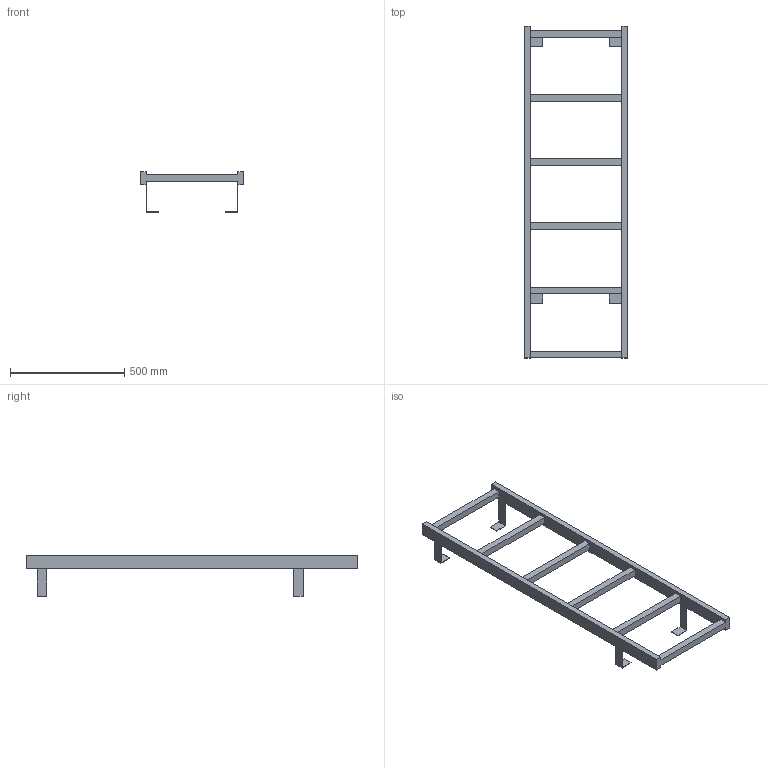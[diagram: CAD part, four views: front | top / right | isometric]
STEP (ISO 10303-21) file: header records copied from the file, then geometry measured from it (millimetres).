
FILE_DESCRIPTION((''),'2;1');
FILE_NAME('017_000109','2017-06-19T',('set'),('HUBER SE'),'PRO/ENGINEER BY PARAMETRIC TECHNOLOGY CORPORATION, 2015280','PRO/ENGINEER BY PARAMETRIC TECHNOLOGY CORPORATION, 2015280','');
FILE_SCHEMA(('CONFIG_CONTROL_DESIGN'));
Length unit declared in the file: millimetre
Products named in the file (1): 017_000109
Bounding box: 450 x 1450 x 178.5 mm (x, y, z)
Volume: 6357460 mm3; surface area: 817988 mm2
Topology: 1 solids, 1 shells, 66 faces, 293 edges, 225 vertices
Faces by surface type: plane 66
Entity records: 2826 total; most frequent: CARTESIAN_POINT 631, DIRECTION 392, ORIENTED_EDGE 384, VECTOR 246, LINE 246, EDGE_CURVE 192, VERTEX_POINT 124, COMPOSITE_CURVE_SEGMENT 101
